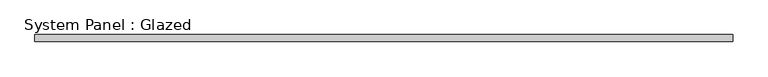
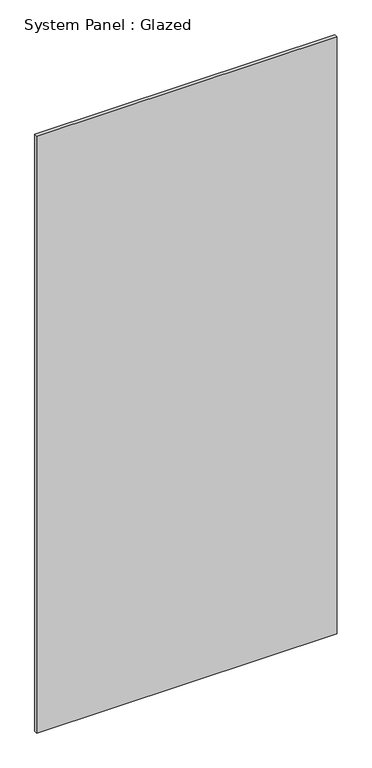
"""IFC4 building model written with IfcOpenShell, lengths in millimetres: plate geometry, System Panel : Glazed."""

import ifcopenshell
import ifcopenshell.guid

model = None  # the IFC model being written
_history = None  # IfcOwnerHistory: only IFC2X3 demands one
_inside = {}  # id of a spatial element -> (the spatial element, [elements in it])
_under = {}  # id of a project, library or spatial element -> (it, [spatial elements below it])
_declared = {}  # id of a project -> (the project, [libraries it declares])
_typed = {}  # id of a type object -> (the type object, [elements of that type])
_made_of = {}  # id of a material, layer set ... -> (it, [elements and type objects made of it])


def new_model(schema):
    """Start an empty IFC model of exactly this schema.

    Asked for "IFC4X3", IfcOpenShell would pick the latest addendum, in which some entities
    have other attributes; the version numbers below select the first issue.
    IFC2X3 requires an IfcOwnerHistory on every rooted entity: one is made here for all.
    """
    global model, _history
    if schema == "IFC4X3":
        model = ifcopenshell.file(schema_version=(4, 3, 0, 0))
    else:
        model = ifcopenshell.file(schema=schema)
    _inside.clear()
    _under.clear()
    _declared.clear()
    _typed.clear()
    _made_of.clear()
    _history = None
    if model.schema == "IFC2X3":
        org = make("IfcOrganization", Name="unknown")
        user = make(
            "IfcPersonAndOrganization",
            ThePerson=make("IfcPerson", FamilyName="unknown"),
            TheOrganization=org,
        )
        app = make(
            "IfcApplication",
            ApplicationDeveloper=org,
            Version="unknown",
            ApplicationFullName="unknown",
            ApplicationIdentifier="unknown",
        )
        _history = make(
            "IfcOwnerHistory",
            OwningUser=user,
            OwningApplication=app,
            ChangeAction="ADDED",
            CreationDate=0,
        )
    return model


def make(cls, **values):
    """One entity of the class cls with the attributes given. An attribute that is None is left unset."""
    return model.create_entity(
        cls, **{name: value for name, value in values.items() if value is not None}
    )


def rooted(cls, **values):
    """An entity with a GlobalId (a new one), such as an element, a storey or a relation."""
    return make(cls, GlobalId=ifcopenshell.guid.new(), OwnerHistory=_history, **values)


def si_unit(unit_type, name, prefix=None):
    """IfcSIUnit, for example si_unit("LENGTHUNIT", "METRE", prefix="MILLI")."""
    return make("IfcSIUnit", UnitType=unit_type, Prefix=prefix, Name=name)


def assignment(units):
    """IfcUnitAssignment: the units of a project."""
    return None if units is None else make("IfcUnitAssignment", Units=units)


def point(xyz):
    """IfcCartesianPoint."""
    return None if xyz is None else make("IfcCartesianPoint", Coordinates=xyz)


def direction(xyz):
    """IfcDirection."""
    return None if xyz is None else make("IfcDirection", DirectionRatios=xyz)


def frame(location, z_axis=None, x_axis=None):
    """IfcAxis2Placement3D, a coordinate frame: its origin and axes. An axis left out is left unset."""
    return make(
        "IfcAxis2Placement3D",
        Location=point(location),
        Axis=direction(z_axis),
        RefDirection=direction(x_axis),
    )


def origin():
    """The frame at (0, 0, 0) with its axes left unset."""
    return frame((0.0, 0.0, 0.0))


def origin_with_axes():
    """The frame at (0, 0, 0) with the z axis (0, 0, 1) and the x axis (1, 0, 0) written out."""
    return frame((0.0, 0.0, 0.0), z_axis=(0.0, 0.0, 1.0), x_axis=(1.0, 0.0, 0.0))


def place(relative_to, where):
    """IfcLocalPlacement: puts the frame where relative to a parent placement (None: the world)."""
    return make(
        "IfcLocalPlacement", PlacementRelTo=relative_to, RelativePlacement=where
    )


def context(
    kind, dimensions, precision=None, world=None, true_north=None, identifier=None
):
    """IfcGeometricRepresentationContext, for example the 3D "Model" context."""
    return make(
        "IfcGeometricRepresentationContext",
        ContextIdentifier=identifier,
        ContextType=kind,
        CoordinateSpaceDimension=dimensions,
        Precision=precision,
        WorldCoordinateSystem=world,
        TrueNorth=true_north,
    )


def project(units=None, contexts=None):
    """IfcProject with its units and contexts."""
    return rooted(
        "IfcProject",
        Name="project",
        RepresentationContexts=contexts,
        UnitsInContext=assignment(units),
    )


def spatial(cls, under=None, at=None, **own):
    """A site, building, storey or space (cls), placed at a placement, below another one or the project."""
    s = rooted(cls, ObjectPlacement=at, **own)
    if under is not None:
        _under.setdefault(under.id(), (under, []))[1].append(s)
    return s


def polyline(points):
    """IfcPolyline through the points."""
    return make("IfcPolyline", Points=[point(p) for p in points])


def outline(outer, holes=None, kind="AREA"):
    """IfcArbitraryClosedProfileDef: a profile drawn as a closed curve; with holes, ...WithVoids."""
    if holes is None:
        return make("IfcArbitraryClosedProfileDef", ProfileType=kind, OuterCurve=outer)
    return make(
        "IfcArbitraryProfileDefWithVoids",
        ProfileType=kind,
        OuterCurve=outer,
        InnerCurves=holes,
    )


def extrude(swept, where, along, depth):
    """IfcExtrudedAreaSolid: the profile swept, set in the frame where, extruded along a direction by depth."""
    return make(
        "IfcExtrudedAreaSolid",
        SweptArea=swept,
        Position=where,
        ExtrudedDirection=direction(along),
        Depth=depth,
    )


def shape(context_of_items, identifier, shape_type, items):
    """IfcShapeRepresentation: the items that make up one representation, for example the "Body"."""
    return make(
        "IfcShapeRepresentation",
        ContextOfItems=context_of_items,
        RepresentationIdentifier=identifier,
        RepresentationType=shape_type,
        Items=items,
    )


def source(mapping_origin, context_of_items, identifier, shape_type, items):
    """IfcRepresentationMap: a shape defined once, which mapped items show again and again."""
    return make(
        "IfcRepresentationMap",
        MappingOrigin=mapping_origin,
        MappedRepresentation=shape(context_of_items, identifier, shape_type, items),
    )


def transform(
    local_origin,
    x_axis=None,
    y_axis=None,
    z_axis=None,
    scale=None,
    scale2=None,
    scale3=None,
    uniform=True,
):
    """IfcCartesianTransformationOperator3D, or its non-uniform kind. x_axis, y_axis, z_axis: its Axis1, 2, 3."""
    if uniform:
        return make(
            "IfcCartesianTransformationOperator3D",
            Axis1=direction(x_axis),
            Axis2=direction(y_axis),
            LocalOrigin=point(local_origin),
            Scale=scale,
            Axis3=direction(z_axis),
        )
    return make(
        "IfcCartesianTransformationOperator3DnonUniform",
        Axis1=direction(x_axis),
        Axis2=direction(y_axis),
        LocalOrigin=point(local_origin),
        Scale=scale,
        Axis3=direction(z_axis),
        Scale2=scale2,
        Scale3=scale3,
    )


def mapped(mapping_source, mapping_target):
    """IfcMappedItem: shows the shape of a source again, moved by a transform."""
    return make(
        "IfcMappedItem", MappingSource=mapping_source, MappingTarget=mapping_target
    )


def made_of(thing, what):
    """Note that an element or type object is made of a material, layer set ...; save() writes the relation."""
    if what is not None:
        _made_of.setdefault(what.id(), (what, []))[1].append(thing)
    return thing


def element(
    cls,
    number,
    at=None,
    inside=None,
    cuts=None,
    type_object=None,
    material=None,
    context=None,
    identifier="Body",
    shape_type=None,
    held_by="IfcProductDefinitionShape",
    body=None,
    shapes=None,
    **own,
):
    """One element of the class cls, such as IfcWall. Its Tag is "e" and its number.

    at: its placement. inside: the storey or other place that contains it. cuts: it is an
    opening in that element (IfcRelVoidsElement). A single representation is given by context,
    identifier, shape_type and body (its items); several are given by shapes. held_by: the class
    of the entity that holds the representations. save() writes the other relations.
    """
    e = rooted(cls, Tag="e%d" % number, ObjectPlacement=at, **own)
    if body is not None:
        shapes = [shape(context, identifier, shape_type, body)]
    if shapes is not None:
        e.Representation = make(held_by, Representations=shapes)
    if inside is not None:
        _inside.setdefault(inside.id(), (inside, []))[1].append(e)
    if cuts is not None:
        rooted(
            "IfcRelVoidsElement", RelatingBuildingElement=cuts, RelatedOpeningElement=e
        )
    if type_object is not None:
        _typed.setdefault(type_object.id(), (type_object, []))[1].append(e)
    return made_of(e, material)


def aggregate(whole, parts):
    """IfcRelAggregates: a whole, such as a stair, and the parts it consists of."""
    return rooted("IfcRelAggregates", RelatingObject=whole, RelatedObjects=parts)


def save(model, path):
    """Write the relations noted so far, then the file.

    IfcRelAggregates (storeys below a building ...), IfcRelContainedInSpatialStructure (elements
    in a storey), IfcRelDefinesByType, IfcRelAssociatesMaterial and IfcRelDeclares: one each for
    every whole, place, type object, material and project.
    """
    for whole, parts in _under.values():
        aggregate(whole, parts)
    for where, things in _inside.values():
        rooted(
            "IfcRelContainedInSpatialStructure",
            RelatedElements=things,
            RelatingStructure=where,
        )
    for kind, things in _typed.values():
        rooted("IfcRelDefinesByType", RelatedObjects=things, RelatingType=kind)
    for what, things in _made_of.values():
        rooted("IfcRelAssociatesMaterial", RelatedObjects=things, RelatingMaterial=what)
    for by, libraries in _declared.values():
        rooted("IfcRelDeclares", RelatingContext=by, RelatedDefinitions=libraries)
    model.write(path)


def system_panel_glazed_889c304a(model_context):
    return source(origin(), model_context, "Body", "SweptSolid", [
        extrude(outline(polyline([(500.0, 0.0), (-500.0, 0.0), (-500.0, 10.0), (500.0, 10.0), (500.0, 0.0)])), origin_with_axes(), (0.0, 0.0, 1.0), 2100.0),
    ])


if __name__ == "__main__":
    model = new_model("IFC4")
    model_context = context("Model", 3, world=origin())
    ifc_project = project(units=[si_unit("LENGTHUNIT", "METRE", prefix="MILLI")], contexts=[model_context])
    site = spatial("IfcSite", under=ifc_project)
    building = spatial("IfcBuilding", under=site)
    placement = place(None, origin())
    system_panel_glazed_shape = system_panel_glazed_889c304a(model_context)
    element("IfcPlate", 1, ObjectType="System Panel : Glazed", at=placement, inside=building, context=model_context, shape_type="MappedRepresentation", body=[
        mapped(system_panel_glazed_shape, transform((0.0, 0.0, 0.0), x_axis=(1.0, 0.0, 0.0), y_axis=(0.0, 1.0, 0.0), z_axis=(0.0, 0.0, 1.0))),
    ])
    save(model, "model.ifc")
